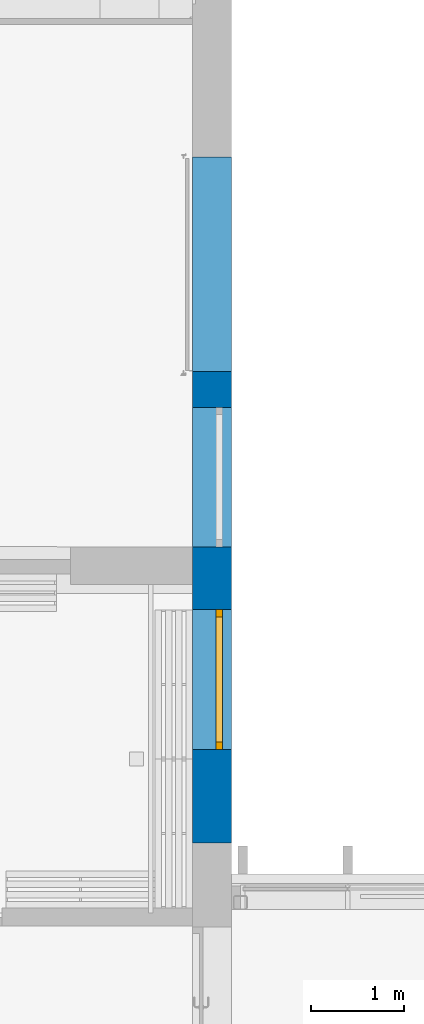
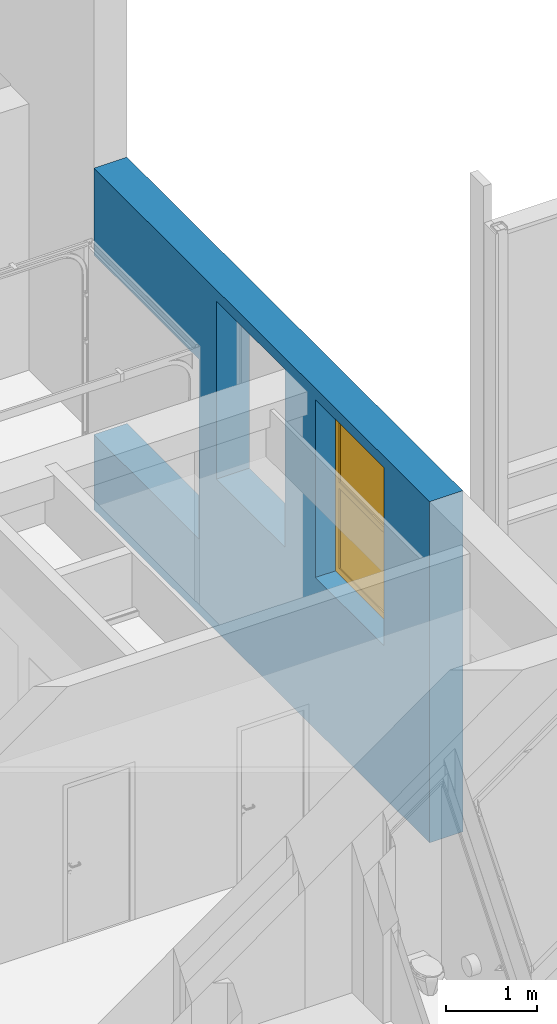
# One storey, part 94 of 301: 1 wall, 1 window, 5 openings.
"""IFC2X3 building model written with IfcOpenShell, lengths in millimetres."""

from ifc_helpers import new_model, entity, si_unit, converted_unit, derived_unit, money_unit, direction, frame, origin_with_axes, place, context, subcontext, project, spatial, open_shell, faceted_brep, surface_model, source, transform, mapped, material, type_object, element, fill, save


model = new_model("IFC2X3")

# Units and contexts
model_context = context("Model", 3, precision=0.01, world=origin_with_axes(), true_north=direction((0.0, 1.0)))
body_context = subcontext(model_context, "Body", "Model", "MODEL_VIEW")
ifc_project = project(units=[si_unit("LENGTHUNIT", "METRE", prefix="MILLI"), si_unit("AREAUNIT", "SQUARE_METRE"), si_unit("VOLUMEUNIT", "CUBIC_METRE"), converted_unit("PLANEANGLEUNIT", "DEGREE", entity("IfcPlaneAngleMeasure", 0.0174532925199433), si_unit("PLANEANGLEUNIT", "RADIAN"), dimensions=[0, 0, 0, 0, 0, 0, 0]), money_unit("EUR"), converted_unit("TIMEUNIT", "Year", entity("IfcTimeMeasure", 31557600.0), si_unit("TIMEUNIT", "SECOND"), dimensions=[0, 0, 1, 0, 0, 0, 0]), si_unit("MASSUNIT", "GRAM", prefix="KILO"), si_unit("THERMODYNAMICTEMPERATUREUNIT", "DEGREE_CELSIUS"), si_unit("LUMINOUSINTENSITYUNIT", "LUMEN"), si_unit("ENERGYUNIT", "JOULE", prefix="MEGA"), derived_unit("THERMALCONDUCTANCEUNIT", [(si_unit("POWERUNIT", "WATT"), 1), (si_unit("LENGTHUNIT", "METRE"), -1), (si_unit("THERMODYNAMICTEMPERATUREUNIT", "KELVIN"), -1)]), derived_unit("SPECIFICHEATCAPACITYUNIT", [(si_unit("ENERGYUNIT", "JOULE"), 1), (si_unit("MASSUNIT", "GRAM", prefix="KILO"), -1), (si_unit("THERMODYNAMICTEMPERATUREUNIT", "KELVIN"), -1)]), derived_unit("MASSDENSITYUNIT", [(si_unit("MASSUNIT", "GRAM", prefix="KILO"), 1), (si_unit("VOLUMEUNIT", "CUBIC_METRE"), -1)])], contexts=[model_context])

# Site, building, storey
site_placement = place(None, frame((0.0, 0.0, 8650.0), z_axis=(0.0, 0.0, 1.0), x_axis=(1.0, 0.0, 0.0)))
site = spatial("IfcSite", under=ifc_project, at=site_placement, Name="43301:001:0844", CompositionType="ELEMENT")
building_placement = place(site_placement, origin_with_axes())
building = spatial("IfcBuilding", under=site, at=building_placement, Name="Kuressaare Ametikooli tuulikute mehaanikute õppekorpus", CompositionType="ELEMENT")
storey_placement = place(building_placement, origin_with_axes())
storey = spatial("IfcBuildingStorey", under=building, at=storey_placement, Name="1.korrus", CompositionType="ELEMENT", Elevation=0.0)

# Wall, openings, window
ifc_material = material(Name="GENEERILINE - KONSTRUKTRIOON")
wall_type = type_object("IfcWallType", Name="GENEERILINE - KONSTRUKTRIOON 420", PredefinedType="NOTDEFINED")
wall_placement = place(storey_placement, frame((103647.5122070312, 36425.81475378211, -1000.0), z_axis=(0.0, 0.0, 1.0), x_axis=(0.0, -1.0, 0.0)))
wall = element("IfcWall", 1, at=wall_placement, inside=storey, type_object=wall_type, material=ifc_material, Name="VS-XX", context=body_context, shape_type="Brep", body=[
    faceted_brep([(2300.000000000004, 0.0, 1000.0), (2300.000000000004, 0.0, 3400.0), (0.0, 0.0, 3400.0), (0.0, 0.0, 4560.000000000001), (7351.735894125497, 0.0, 4560.000000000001), (7351.735894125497, 0.0, 0.0), (0.0, 0.0, 0.0), (0.0, 0.0, 1000.0), (6351.204119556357, 0.0, 2030.0), (6351.204119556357, 0.0, 4410.0), (4851.204119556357, 0.0, 4410.0), (4851.204119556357, 0.0, 2030.0), (2681.805255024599, 0.0, 4410.0), (2681.805255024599, 0.0, 2030.0), (4181.805255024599, 0.0, 2030.0), (4181.805255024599, 0.0, 4410.0), (2300.000000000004, -420.0000000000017, 1000.0), (2300.000000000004, -420.0000000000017, 3400.0), (0.0, -420.0000000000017, 3400.0), (0.0, -420.0000000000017, 4560.000000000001), (7351.735894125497, -420.0000000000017, 4560.000000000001), (7351.735894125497, -420.0000000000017, 0.0), (0.0, -420.0000000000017, 0.0), (0.0, -420.0000000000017, 1000.0), (6351.204119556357, -420.0000000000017, 2030.0), (6351.204119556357, -420.0000000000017, 4410.0), (4851.204119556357, -420.0000000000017, 4410.0), (4851.204119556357, -420.0000000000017, 2030.0), (2681.805255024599, -420.0000000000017, 4410.0), (2681.805255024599, -420.0000000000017, 2030.0), (4181.805255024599, -420.0000000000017, 2030.0), (4181.805255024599, -420.0000000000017, 4410.0)], [[[0, 1, 2, 3, 4, 5, 6, 7], [8, 9, 10, 11], [12, 13, 14, 15]], [[1, 0, 16, 17]], [[18, 2, 1, 17]], [[2, 18, 19, 3]], [[20, 4, 3, 19]], [[20, 21, 5, 4]], [[5, 21, 22, 6]], [[23, 7, 6, 22]], [[0, 7, 23, 16]], [[8, 24, 25, 9]], [[10, 9, 25, 26]], [[11, 10, 26, 27]], [[11, 27, 24, 8]], [[28, 29, 13, 12]], [[30, 14, 13, 29]], [[31, 15, 14, 30]], [[31, 28, 12, 15]], [[16, 23, 22, 21, 20, 19, 18, 17], [25, 24, 27, 26], [29, 28, 31, 30]]]),
])
opening_1_placement = place(wall_placement, frame((5601.204119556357, 0.0, 2030.0), z_axis=(0.0, 0.0, 1.0), x_axis=(1.0, 0.0, 0.0)))
element("IfcOpeningElement", 2, at=opening_1_placement, cuts=wall, context=body_context, shape_type="Brep", body=[
    faceted_brep([(-750.0, -100.0000000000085, 0.0), (-750.0, -100.0000000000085, 2380.0), (-750.0, 1.000000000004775, 2380.0), (-750.0, 1.000000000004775, 0.0), (-750.0, -421.0000000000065, 0.0), (-750.0, -421.0000000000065, 2380.0), (750.0, -100.0000000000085, 2380.0), (750.0, 1.000000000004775, 2380.0), (750.0, 1.000000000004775, 0.0), (750.0, -100.0000000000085, 0.0), (750.0, -421.0000000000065, 0.0), (750.0, -421.0000000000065, 2380.0)], [[[0, 1, 2, 3]], [[1, 0, 4, 5]], [[1, 6, 7, 2]], [[8, 3, 2, 7]], [[9, 0, 3, 8]], [[0, 9, 10, 4]], [[5, 4, 10, 11]], [[6, 1, 5, 11]], [[6, 9, 8, 7]], [[9, 6, 11, 10]]]),
])
opening_2_placement = place(wall_placement, frame((3431.805255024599, 0.0, 2030.0), z_axis=(0.0, 0.0, 1.0), x_axis=(1.0, 0.0, 0.0)))
element("IfcOpeningElement", 3, at=opening_2_placement, cuts=wall, Name="VA-XX", context=body_context, shape_type="Brep", body=[
    faceted_brep([(-750.0, -100.0000000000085, 0.0), (-750.0, -100.0000000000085, 2380.0), (-750.0, 1.000000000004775, 2380.0), (-750.0, 1.000000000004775, 0.0), (-750.0, -421.0000000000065, 0.0), (-750.0, -421.0000000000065, 2380.0), (750.0, -100.0000000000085, 2380.0), (750.0, 1.000000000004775, 2380.0), (750.0, -421.0000000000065, 2380.0), (750.0, 1.000000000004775, 0.0), (750.0, -100.0000000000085, 0.0), (750.0, -421.0000000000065, 0.0)], [[[0, 1, 2, 3]], [[1, 0, 4, 5]], [[6, 7, 2, 1, 5, 8]], [[7, 9, 3, 2]], [[0, 3, 9, 10, 11, 4]], [[5, 4, 11, 8]], [[6, 10, 9, 7]], [[10, 6, 8, 11]]]),
])
opening_3_placement = place(wall_placement, frame((5601.204119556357, 0.0, 2030.0), z_axis=(0.0, 0.0, 1.0), x_axis=(1.0, 0.0, 0.0)))
opening_3 = element("IfcOpeningElement", 4, at=opening_3_placement, cuts=wall, Name="AL-3,EI120", context=body_context, shape_type="Brep", body=[
    faceted_brep([(-750.0, -100.0000000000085, 0.0), (-750.0, -100.0000000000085, 2380.0), (-750.0, 1.000000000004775, 2380.0), (-750.0, 1.000000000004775, 0.0), (-750.0, -421.0000000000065, 0.0), (-750.0, -421.0000000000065, 2380.0), (750.0, -100.0000000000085, 2380.0), (750.0, 1.000000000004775, 2380.0), (750.0, -421.0000000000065, 2380.0), (750.0, 1.000000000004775, 0.0), (750.0, -100.0000000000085, 0.0), (750.0, -421.0000000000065, 0.0)], [[[0, 1, 2, 3]], [[1, 0, 4, 5]], [[6, 7, 2, 1, 5, 8]], [[7, 9, 3, 2]], [[0, 3, 9, 10, 11, 4]], [[5, 4, 11, 8]], [[6, 10, 9, 7]], [[10, 6, 8, 11]]]),
])
opening_4_placement = place(wall_placement, frame((5601.204119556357, 0.0, 2030.0), z_axis=(0.0, 0.0, 1.0), x_axis=(1.0, 0.0, 0.0)))
element("IfcOpeningElement", 5, at=opening_4_placement, cuts=wall, context=body_context, shape_type="Brep", body=[
    faceted_brep([(-750.0, -100.0000000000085, 0.0), (-750.0, -100.0000000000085, 2380.0), (-750.0, 1.000000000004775, 2380.0), (-750.0, 1.000000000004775, 0.0), (-750.0, -421.0000000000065, 0.0), (-750.0, -421.0000000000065, 2380.0), (750.0, -100.0000000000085, 2380.0), (750.0, 1.000000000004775, 2380.0), (750.0, 1.000000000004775, 0.0), (750.0, -100.0000000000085, 0.0), (750.0, -421.0000000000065, 0.0), (750.0, -421.0000000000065, 2380.0)], [[[0, 1, 2, 3]], [[1, 0, 4, 5]], [[1, 6, 7, 2]], [[8, 3, 2, 7]], [[9, 0, 3, 8]], [[0, 9, 10, 4]], [[5, 4, 10, 11]], [[6, 1, 5, 11]], [[6, 9, 8, 7]], [[9, 6, 11, 10]]]),
])
opening_5_placement = place(wall_placement, frame((1150.000000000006, 0.0, 1000.0), z_axis=(0.0, 0.0, 1.0), x_axis=(1.0, 0.0, 0.0)))
element("IfcOpeningElement", 6, at=opening_5_placement, cuts=wall, context=body_context, shape_type="Brep", body=[
    faceted_brep([(-1149.999999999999, -421.0000000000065, 2400.0), (-1149.999999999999, -421.0000000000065, 0.0), (1149.999999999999, -421.0000000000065, 0.0), (1149.999999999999, -421.0000000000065, 2400.0), (-1149.999999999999, 1.000000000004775, 2400.0), (-1149.999999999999, 1.000000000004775, 0.0), (1149.999999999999, 1.000000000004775, 0.0), (1149.999999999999, 1.000000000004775, 2400.0)], [[[0, 1, 2, 3]], [[4, 5, 1, 0]], [[5, 6, 2, 1]], [[6, 7, 3, 2]], [[7, 4, 0, 3]], [[6, 5, 4, 7]]]),
])
window_style = type_object("IfcWindowStyle", Name="Window 27", ConstructionType="NOTDEFINED", OperationType="DOUBLE_PANEL_HORIZONTAL", ParameterTakesPrecedence=False, Sizeable=False)
shared_shape = source(origin_with_axes(), body_context, "Body", "SurfaceModel", [
    faceted_brep([(-670.0000000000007, -65.00000000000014, 1150.0), (-670.0000000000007, 0.0, 1150.0), (-670.0000000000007, 0.0, 1230.0), (-670.0000000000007, -65.00000000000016, 1230.0), (-670.0000000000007, -65.00000000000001, 80.0), (-670.0000000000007, 0.0, 80.00000000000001), (-750.0000000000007, 0.0, 80.00000000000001), (-750.0000000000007, 0.0, 2300.0), (-670.0000000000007, 0.0, 2300.0), (-670.0000000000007, -65.00000000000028, 2300.0), (-750.0000000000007, -65.00000000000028, 2300.0), (-750.0000000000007, -65.00000000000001, 80.0)], [[[0, 1, 2, 3]], [[4, 5, 1, 0]], [[1, 5, 6, 7, 8, 2]], [[3, 2, 8, 9]], [[0, 3, 9, 10, 11, 4]], [[11, 6, 5, 4]], [[10, 7, 6, 11]], [[9, 8, 7, 10]]]),
    faceted_brep([(670.0000000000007, -65.00000000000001, 80.0), (670.0000000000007, 0.0, 80.00000000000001), (750.0000000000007, 0.0, 80.00000000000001), (750.0000000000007, -65.00000000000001, 80.0), (670.0000000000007, -65.00000000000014, 1150.0), (670.0000000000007, 0.0, 1150.0), (670.0000000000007, 0.0, 1230.0), (670.0000000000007, 0.0, 2300.0), (750.0000000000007, 0.0, 2300.0), (750.0000000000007, -65.00000000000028, 2300.0), (670.0000000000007, -65.00000000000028, 2300.0), (670.0000000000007, -65.00000000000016, 1230.0)], [[[0, 1, 2, 3]], [[4, 5, 1, 0]], [[1, 5, 6, 7, 8, 2]], [[3, 2, 8, 9]], [[0, 3, 9, 10, 11, 4]], [[11, 6, 5, 4]], [[10, 7, 6, 11]], [[9, 8, 7, 10]]]),
    faceted_brep([(-670.0000000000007, -65.00000000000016, 1230.0), (-670.0000000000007, 0.0, 1230.0), (-670.0000000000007, 0.0, 1150.0), (-670.0000000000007, -65.00000000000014, 1150.0), (670.0000000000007, -65.00000000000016, 1230.0), (670.0000000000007, 0.0, 1230.0), (670.0000000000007, 0.0, 1150.0), (670.0000000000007, -65.00000000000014, 1150.0)], [[[0, 1, 2, 3]], [[4, 5, 1, 0]], [[1, 5, 6, 2]], [[3, 2, 6, 7]], [[0, 3, 7, 4]], [[7, 6, 5, 4]]]),
    faceted_brep([(-670.0000000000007, -65.00000000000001, 80.0), (-670.0000000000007, 0.0, 80.00000000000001), (-750.0000000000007, 0.0, 80.00000000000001), (-750.0000000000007, -65.00000000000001, 80.0), (670.0000000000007, -65.00000000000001, 80.0), (670.0000000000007, 0.0, 80.00000000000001), (750.0000000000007, 0.0, 80.00000000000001), (750.0000000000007, 0.0, 0.0), (-750.0000000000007, 0.0, 0.0), (-750.0000000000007, -65.0, 0.0), (750.0000000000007, -65.0, 0.0), (750.0000000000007, -65.00000000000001, 80.0)], [[[0, 1, 2, 3]], [[4, 5, 1, 0]], [[1, 5, 6, 7, 8, 2]], [[3, 2, 8, 9]], [[0, 3, 9, 10, 11, 4]], [[11, 6, 5, 4]], [[10, 7, 6, 11]], [[9, 8, 7, 10]]]),
    faceted_brep([(670.0000000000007, -65.00000000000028, 2300.0), (670.0000000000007, 0.0, 2300.0), (750.0000000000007, 0.0, 2300.0), (750.0000000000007, -65.00000000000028, 2300.0), (-670.0000000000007, -65.00000000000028, 2300.0), (-670.0000000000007, 0.0, 2300.0), (-750.0000000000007, 0.0, 2300.0), (-750.0000000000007, 0.0, 2380.0), (750.0000000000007, 0.0, 2380.0), (750.0000000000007, -65.0000000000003, 2380.0), (-750.0000000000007, -65.0000000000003, 2380.0), (-750.0000000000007, -65.00000000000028, 2300.0)], [[[0, 1, 2, 3]], [[4, 5, 1, 0]], [[1, 5, 6, 7, 8, 2]], [[3, 2, 8, 9]], [[0, 3, 9, 10, 11, 4]], [[11, 6, 5, 4]], [[10, 7, 6, 11]], [[9, 8, 7, 10]]]),
    surface_model("IfcShellBasedSurfaceModel", [(-670.0000000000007, -35.00000000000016, 1230.0), (670.0000000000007, -35.00000000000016, 1230.0), (670.0000000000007, -35.00000000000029, 2300.0), (-670.0000000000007, -35.00000000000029, 2300.0)], [open_shell([[[0, 1, 2, 3]]])]),
    surface_model("IfcShellBasedSurfaceModel", [(-670.0000000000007, -15.00000000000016, 1230.0), (-670.0000000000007, -15.00000000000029, 2300.0), (670.0000000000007, -15.00000000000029, 2300.0), (670.0000000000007, -15.00000000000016, 1230.0)], [open_shell([[[0, 1, 2, 3]]])]),
    surface_model("IfcShellBasedSurfaceModel", [(-670.0000000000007, -35.0, 80.0), (670.0000000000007, -35.0, 80.0), (670.0000000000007, -35.00000000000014, 1150.0), (-670.0000000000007, -35.00000000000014, 1150.0)], [open_shell([[[0, 1, 2, 3]]])]),
    surface_model("IfcShellBasedSurfaceModel", [(-670.0000000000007, -15.0, 80.0), (-670.0000000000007, -15.00000000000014, 1150.0), (670.0000000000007, -15.00000000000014, 1150.0), (670.0000000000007, -15.0, 80.0)], [open_shell([[[0, 1, 2, 3]]])]),
])
window_placement = place(opening_3_placement, frame((750.0, 0.0, 0.0), z_axis=(0.0, 0.0, 1.0), x_axis=(-1.0, 0.0, 0.0)))
window = element("IfcWindow", 7, at=window_placement, inside=storey, type_object=window_style, Name="AL-3,EI120", OverallHeight=2380.0, OverallWidth=1500.0, context=body_context, shape_type="MappedRepresentation", body=[
    mapped(shared_shape, transform((750.0, 165.0000000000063, 0.0))),
])
fill(opening_3, window)

save(model, "model.ifc")
